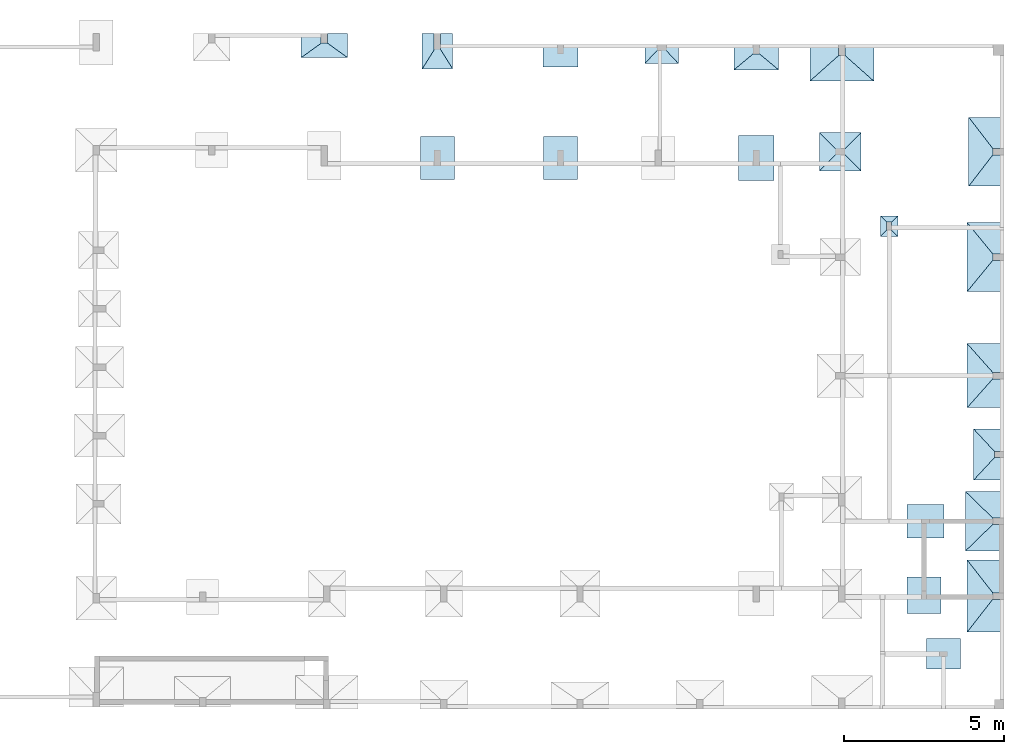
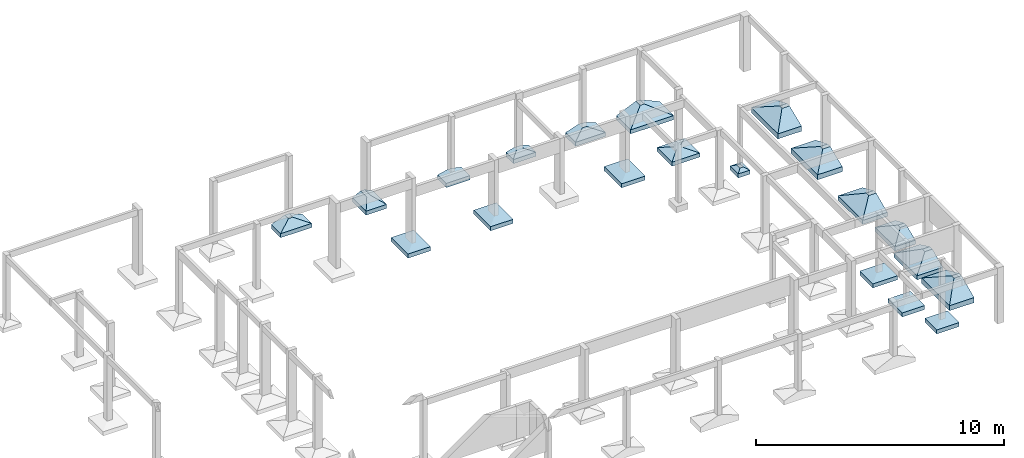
# One storey, part 5 of 5: 20 footings.
"""IFC4 building model written with IfcOpenShell, lengths in centimetres."""

import ifcopenshell
import ifcopenshell.guid

model = None  # the IFC model being written
_history = None  # IfcOwnerHistory: only IFC2X3 demands one
_inside = {}  # id of a spatial element -> (the spatial element, [elements in it])
_under = {}  # id of a project, library or spatial element -> (it, [spatial elements below it])
_declared = {}  # id of a project -> (the project, [libraries it declares])
_typed = {}  # id of a type object -> (the type object, [elements of that type])
_made_of = {}  # id of a material, layer set ... -> (it, [elements and type objects made of it])


def new_model(schema):
    """Start an empty IFC model of exactly this schema.

    Asked for "IFC4X3", IfcOpenShell would pick the latest addendum, in which some entities
    have other attributes; the version numbers below select the first issue.
    IFC2X3 requires an IfcOwnerHistory on every rooted entity: one is made here for all.
    """
    global model, _history
    if schema == "IFC4X3":
        model = ifcopenshell.file(schema_version=(4, 3, 0, 0))
    else:
        model = ifcopenshell.file(schema=schema)
    _inside.clear()
    _under.clear()
    _declared.clear()
    _typed.clear()
    _made_of.clear()
    _history = None
    if model.schema == "IFC2X3":
        org = make("IfcOrganization", Name="unknown")
        user = make(
            "IfcPersonAndOrganization",
            ThePerson=make("IfcPerson", FamilyName="unknown"),
            TheOrganization=org,
        )
        app = make(
            "IfcApplication",
            ApplicationDeveloper=org,
            Version="unknown",
            ApplicationFullName="unknown",
            ApplicationIdentifier="unknown",
        )
        _history = make(
            "IfcOwnerHistory",
            OwningUser=user,
            OwningApplication=app,
            ChangeAction="ADDED",
            CreationDate=0,
        )
    return model


def make(cls, **values):
    """One entity of the class cls with the attributes given. An attribute that is None is left unset."""
    return model.create_entity(
        cls, **{name: value for name, value in values.items() if value is not None}
    )


def rooted(cls, **values):
    """An entity with a GlobalId (a new one), such as an element, a storey or a relation."""
    return make(cls, GlobalId=ifcopenshell.guid.new(), OwnerHistory=_history, **values)


def si_unit(unit_type, name, prefix=None):
    """IfcSIUnit, for example si_unit("LENGTHUNIT", "METRE", prefix="MILLI")."""
    return make("IfcSIUnit", UnitType=unit_type, Prefix=prefix, Name=name)


def derived_unit(unit_type, elements):
    """IfcDerivedUnit: a product of units, each with its exponent."""
    return make(
        "IfcDerivedUnit",
        Elements=[
            make("IfcDerivedUnitElement", Unit=unit, Exponent=power)
            for unit, power in elements
        ],
        UnitType=unit_type,
    )


def assignment(units):
    """IfcUnitAssignment: the units of a project."""
    return None if units is None else make("IfcUnitAssignment", Units=units)


def point(xyz):
    """IfcCartesianPoint."""
    return None if xyz is None else make("IfcCartesianPoint", Coordinates=xyz)


def direction(xyz):
    """IfcDirection."""
    return None if xyz is None else make("IfcDirection", DirectionRatios=xyz)


def frame(location, z_axis=None, x_axis=None):
    """IfcAxis2Placement3D, a coordinate frame: its origin and axes. An axis left out is left unset."""
    return make(
        "IfcAxis2Placement3D",
        Location=point(location),
        Axis=direction(z_axis),
        RefDirection=direction(x_axis),
    )


def origin_with_axes():
    """The frame at (0, 0, 0) with the z axis (0, 0, 1) and the x axis (1, 0, 0) written out."""
    return frame((0.0, 0.0, 0.0), z_axis=(0.0, 0.0, 1.0), x_axis=(1.0, 0.0, 0.0))


def place(relative_to, where):
    """IfcLocalPlacement: puts the frame where relative to a parent placement (None: the world)."""
    return make(
        "IfcLocalPlacement", PlacementRelTo=relative_to, RelativePlacement=where
    )


def context(
    kind, dimensions, precision=None, world=None, true_north=None, identifier=None
):
    """IfcGeometricRepresentationContext, for example the 3D "Model" context."""
    return make(
        "IfcGeometricRepresentationContext",
        ContextIdentifier=identifier,
        ContextType=kind,
        CoordinateSpaceDimension=dimensions,
        Precision=precision,
        WorldCoordinateSystem=world,
        TrueNorth=true_north,
    )


def project(units=None, contexts=None):
    """IfcProject with its units and contexts."""
    return rooted(
        "IfcProject",
        Name="project",
        RepresentationContexts=contexts,
        UnitsInContext=assignment(units),
    )


def spatial(cls, under=None, at=None, **own):
    """A site, building, storey or space (cls), placed at a placement, below another one or the project."""
    s = rooted(cls, ObjectPlacement=at, **own)
    if under is not None:
        _under.setdefault(under.id(), (under, []))[1].append(s)
    return s


def faces_of(points, faces, orient=None, outer=None):
    """IfcFace entities. A face is a list of loops; a loop is a list of indices into points, from 0.

    orient and outer hold one flag for each loop. By default every Orientation is true, the
    first loop of a face is its IfcFaceOuterBound and the others are IfcFaceBound.
    """
    made = []
    for i, loops in enumerate(faces):
        bounds = []
        for j, loop in enumerate(loops):
            is_outer = j == 0 if outer is None else outer[i][j]
            bounds.append(
                make(
                    "IfcFaceOuterBound" if is_outer else "IfcFaceBound",
                    Bound=make("IfcPolyLoop", Polygon=[points[k] for k in loop]),
                    Orientation=True if orient is None else orient[i][j],
                )
            )
        made.append(make("IfcFace", Bounds=bounds))
    return made


def faceted_brep(points, faces, orient=None, outer=None, voids=None):
    """IfcFacetedBrep: a solid bounded by flat faces; with voids (closed shells), ...WithVoids."""
    shared = [point(p) for p in points]
    hull = make("IfcClosedShell", CfsFaces=faces_of(shared, faces, orient, outer))
    if voids is None:
        return make("IfcFacetedBrep", Outer=hull)
    return make(
        "IfcFacetedBrepWithVoids",
        Outer=hull,
        Voids=[
            make(cls, CfsFaces=faces_of(shared, fs, o, b)) for cls, fs, o, b in voids
        ],
    )


def shape(context_of_items, identifier, shape_type, items):
    """IfcShapeRepresentation: the items that make up one representation, for example the "Body"."""
    return make(
        "IfcShapeRepresentation",
        ContextOfItems=context_of_items,
        RepresentationIdentifier=identifier,
        RepresentationType=shape_type,
        Items=items,
    )


def material(Name=None, Category=None):
    """IfcMaterial."""
    return make("IfcMaterial", Name=Name, Category=Category)


def made_of(thing, what):
    """Note that an element or type object is made of a material, layer set ...; save() writes the relation."""
    if what is not None:
        _made_of.setdefault(what.id(), (what, []))[1].append(thing)
    return thing


def element(
    cls,
    number,
    at=None,
    inside=None,
    cuts=None,
    type_object=None,
    material=None,
    context=None,
    identifier="Body",
    shape_type=None,
    held_by="IfcProductDefinitionShape",
    body=None,
    shapes=None,
    **own,
):
    """One element of the class cls, such as IfcWall. Its Tag is "e" and its number.

    at: its placement. inside: the storey or other place that contains it. cuts: it is an
    opening in that element (IfcRelVoidsElement). A single representation is given by context,
    identifier, shape_type and body (its items); several are given by shapes. held_by: the class
    of the entity that holds the representations. save() writes the other relations.
    """
    e = rooted(cls, Tag="e%d" % number, ObjectPlacement=at, **own)
    if body is not None:
        shapes = [shape(context, identifier, shape_type, body)]
    if shapes is not None:
        e.Representation = make(held_by, Representations=shapes)
    if inside is not None:
        _inside.setdefault(inside.id(), (inside, []))[1].append(e)
    if cuts is not None:
        rooted(
            "IfcRelVoidsElement", RelatingBuildingElement=cuts, RelatedOpeningElement=e
        )
    if type_object is not None:
        _typed.setdefault(type_object.id(), (type_object, []))[1].append(e)
    return made_of(e, material)


def aggregate(whole, parts):
    """IfcRelAggregates: a whole, such as a stair, and the parts it consists of."""
    return rooted("IfcRelAggregates", RelatingObject=whole, RelatedObjects=parts)


def save(model, path):
    """Write the relations noted so far, then the file.

    IfcRelAggregates (storeys below a building ...), IfcRelContainedInSpatialStructure (elements
    in a storey), IfcRelDefinesByType, IfcRelAssociatesMaterial and IfcRelDeclares: one each for
    every whole, place, type object, material and project.
    """
    for whole, parts in _under.values():
        aggregate(whole, parts)
    for where, things in _inside.values():
        rooted(
            "IfcRelContainedInSpatialStructure",
            RelatedElements=things,
            RelatingStructure=where,
        )
    for kind, things in _typed.values():
        rooted("IfcRelDefinesByType", RelatedObjects=things, RelatingType=kind)
    for what, things in _made_of.values():
        rooted("IfcRelAssociatesMaterial", RelatedObjects=things, RelatingMaterial=what)
    for by, libraries in _declared.values():
        rooted("IfcRelDeclares", RelatingContext=by, RelatedDefinitions=libraries)
    model.write(path)


model = new_model("IFC4")

# Units and contexts
model_context = context("Model", 3, precision=1e-05, world=origin_with_axes(), identifier="Body")
ifc_project = project(units=[si_unit("LENGTHUNIT", "METRE", prefix="CENTI"), si_unit("VOLUMEUNIT", "CUBIC_METRE"), si_unit("AREAUNIT", "SQUARE_METRE"), si_unit("POWERUNIT", "WATT"), si_unit("LUMINOUSFLUXUNIT", "LUMEN"), si_unit("ELECTRICCURRENTUNIT", "AMPERE"), si_unit("PRESSUREUNIT", "PASCAL", prefix="KILO"), si_unit("MASSUNIT", "GRAM", prefix="KILO"), si_unit("PLANEANGLEUNIT", "RADIAN"), derived_unit("VOLUMETRICFLOWRATEUNIT", [(si_unit("LENGTHUNIT", "METRE"), 3), (si_unit("TIMEUNIT", "SECOND"), -1)])], contexts=[model_context])

# Site, building, storey
site_placement = place(None, origin_with_axes())
site = spatial("IfcSite", under=ifc_project, at=site_placement)
building_placement = place(site_placement, frame((0.0, 0.0, -295.0)))
building = spatial("IfcBuilding", under=site, at=building_placement)
placement_1 = place(building_placement, origin_with_axes())
placement_2 = place(placement_1, frame((0.0, 0.0, 101.0), z_axis=(0.0, 0.0, 1.0), x_axis=(1.0, 0.0, 0.0)))
storey_placement = place(placement_2, frame((0.0, 0.0, 204.0), z_axis=(0.0, 0.0, 1.0), x_axis=(1.0, 0.0, 0.0)))
storey = spatial("IfcBuildingStorey", under=building, at=storey_placement, Name="TÉRREO", CompositionType="ELEMENT", Elevation=10.0)

# Footings
ifc_material = material(Name="Concreto")
for number, where, z_axis, x_axis, name in (
    (1, (2248.73, -5459.62, -320.0), (0.0, 0.0, 1.0), (1.0, 0.0, 0.0), "P14"),
    (2, (2632.84, -5459.62, -320.0), (0.0, 0.0, 1.0), (1.0, 0.0, 0.0), "P15"),
):
    element("IfcFooting", number, at=place(storey_placement, frame(where, z_axis=z_axis, x_axis=x_axis)), inside=storey, material=ifc_material, Name=name, PredefinedType="PAD_FOOTING", context=model_context, shape_type="SolidModel", body=[
        faceted_brep([(-52.5, 67.5, -30.0), (52.5, 67.5, -30.0), (52.5, -67.5, -30.0), (-52.5, -67.5, -30.0), (-52.5, -67.5, -10.0), (52.5, -67.5, -10.0), (52.5, 67.5, -10.0), (-52.5, 67.5, -10.0)], [[[0, 1, 2, 3]], [[4, 5, 6, 7]], [[4, 3, 5]], [[3, 2, 5]], [[5, 2, 6]], [[2, 1, 6]], [[6, 1, 7]], [[1, 0, 7]], [[7, 0, 4]], [[0, 3, 4]]]),
        faceted_brep([(-52.5, 67.5, -10.0), (52.5, 67.5, -10.0), (52.5, -67.5, -10.0), (-52.5, -67.5, -10.0), (-10.0, -25.0, 0.0), (10.0, -25.0, 0.0), (10.0, 25.0, 0.0), (-10.0, 25.0, 0.0)], [[[0, 1, 2, 3]], [[4, 5, 6, 7]], [[4, 3, 5]], [[3, 2, 5]], [[5, 2, 6]], [[2, 1, 6]], [[6, 1, 7]], [[1, 0, 7]], [[7, 0, 4]], [[0, 3, 4]]]),
    ])
footing_1_placement = place(storey_placement, frame((3243.73, -5459.62, -320.0), z_axis=(0.0, 0.0, 1.0), x_axis=(1.0, 0.0, 0.0)))
element("IfcFooting", 3, at=footing_1_placement, inside=storey, material=ifc_material, Name="P17", PredefinedType="PAD_FOOTING", context=model_context, shape_type="SolidModel", body=[
    faceted_brep([(-55.0, 70.0, -30.0), (55.0, 70.0, -30.0), (55.0, -70.0, -30.0), (-55.0, -70.0, -30.0), (-55.0, -70.0, -10.0), (55.0, -70.0, -10.0), (55.0, 70.0, -10.0), (-55.0, 70.0, -10.0)], [[[0, 1, 2, 3]], [[4, 5, 6, 7]], [[4, 3, 5]], [[3, 2, 5]], [[5, 2, 6]], [[2, 1, 6]], [[6, 1, 7]], [[1, 0, 7]], [[7, 0, 4]], [[0, 3, 4]]]),
    faceted_brep([(-55.0, 70.0, -10.0), (55.0, 70.0, -10.0), (55.0, -70.0, -10.0), (-55.0, -70.0, -10.0), (-10.0, -25.0, 0.0), (10.0, -25.0, 0.0), (10.0, 25.0, 0.0), (-10.0, 25.0, 0.0)], [[[0, 1, 2, 3]], [[4, 5, 6, 7]], [[4, 3, 5]], [[3, 2, 5]], [[5, 2, 6]], [[2, 1, 6]], [[6, 1, 7]], [[1, 0, 7]], [[7, 0, 4]], [[0, 3, 4]]]),
])
footing_2_placement = place(storey_placement, frame((3505.71, -5439.69, -315.0), z_axis=(0.0, 0.0, 1.0), x_axis=(1.0, 0.0, 0.0)))
element("IfcFooting", 4, at=footing_2_placement, inside=storey, material=ifc_material, Name="P18", PredefinedType="PAD_FOOTING", context=model_context, shape_type="SolidModel", body=[
    faceted_brep([(65.0, 60.0, -35.0), (65.0, -60.0, -35.0), (-65.0, -60.0, -35.0), (-65.0, 60.0, -35.0), (-65.0, 60.0, -15.0), (-65.0, -60.0, -15.0), (65.0, -60.0, -15.0), (65.0, 60.0, -15.0)], [[[0, 1, 2, 3]], [[4, 5, 6, 7]], [[4, 3, 5]], [[3, 2, 5]], [[5, 2, 6]], [[2, 1, 6]], [[6, 1, 7]], [[1, 0, 7]], [[7, 0, 4]], [[0, 3, 4]]]),
    faceted_brep([(65.0, 60.0, -15.0), (65.0, -60.0, -15.0), (-65.0, -60.0, -15.0), (-65.0, 60.0, -15.0), (-15.0, 10.0, 0.0), (-15.0, -10.0, 0.0), (15.0, -10.0, 0.0), (15.0, 10.0, 0.0)], [[[0, 1, 2, 3]], [[4, 5, 6, 7]], [[4, 3, 5]], [[3, 2, 5]], [[5, 2, 6]], [[2, 1, 6]], [[6, 1, 7]], [[1, 0, 7]], [[7, 0, 4]], [[0, 3, 4]]]),
])
footing_3_placement = place(storey_placement, frame((3961.74, -5439.69, -285.0), z_axis=(0.0, 0.0, 1.0), x_axis=(1.0, 0.0, 0.0)))
element("IfcFooting", 5, at=footing_3_placement, inside=storey, material=ifc_material, Name="P19", PredefinedType="PAD_FOOTING", context=model_context, shape_type="SolidModel", body=[
    faceted_brep([(55.0, 107.5, -65.0), (55.0, -107.5, -65.0), (-55.0, -107.5, -65.0), (-55.0, 107.5, -65.0), (-55.0, 107.5, -40.0), (-55.0, -107.5, -40.0), (55.0, -107.5, -40.0), (55.0, 107.5, -40.0)], [[[0, 1, 2, 3]], [[4, 5, 6, 7]], [[4, 3, 5]], [[3, 2, 5]], [[5, 2, 6]], [[2, 1, 6]], [[6, 1, 7]], [[1, 0, 7]], [[7, 0, 4]], [[0, 3, 4]]]),
    faceted_brep([(55.0, 107.5, -40.0), (55.0, -107.5, -40.0), (-55.0, -107.5, -40.0), (-55.0, 107.5, -40.0), (20.0, 10.0, 0.0), (20.0, -10.0, 0.0), (55.0, -10.0, 0.0), (55.0, 10.0, 0.0)], [[[0, 1, 2, 3]], [[4, 5, 6, 7]], [[4, 3, 5]], [[3, 2, 5]], [[5, 2, 6]], [[2, 1, 6]], [[6, 1, 7]], [[1, 0, 7]], [[7, 0, 4]], [[0, 3, 4]]]),
])
footing_4_placement = place(storey_placement, frame((3658.23, -5672.05, -320.0), z_axis=(0.0, 0.0, 1.0), x_axis=(1.0, 0.0, 0.0)))
element("IfcFooting", 6, at=footing_4_placement, inside=storey, material=ifc_material, Name="P21", PredefinedType="PAD_FOOTING", context=model_context, shape_type="SolidModel", body=[
    faceted_brep([(-27.5, 32.5, -30.0), (27.5, 32.5, -30.0), (27.5, -32.5, -30.0), (-27.5, -32.5, -30.0), (-27.5, -32.5, -10.0), (27.5, -32.5, -10.0), (27.5, 32.5, -10.0), (-27.5, 32.5, -10.0)], [[[0, 1, 2, 3]], [[4, 5, 6, 7]], [[4, 3, 5]], [[3, 2, 5]], [[5, 2, 6]], [[2, 1, 6]], [[6, 1, 7]], [[1, 0, 7]], [[7, 0, 4]], [[0, 3, 4]]]),
    faceted_brep([(-27.5, 32.5, -10.0), (27.5, 32.5, -10.0), (27.5, -32.5, -10.0), (-27.5, -32.5, -10.0), (-7.5, -12.5, 0.0), (7.5, -12.5, 0.0), (7.5, 12.5, 0.0), (-7.5, 12.5, 0.0)], [[[0, 1, 2, 3]], [[4, 5, 6, 7]], [[4, 3, 5]], [[3, 2, 5]], [[5, 2, 6]], [[2, 1, 6]], [[6, 1, 7]], [[1, 0, 7]], [[7, 0, 4]], [[0, 3, 4]]]),
])
footing_5_placement = place(storey_placement, frame((3959.26, -5768.55, -285.0), z_axis=(0.0, 0.0, 1.0), x_axis=(1.0, 0.0, 0.0)))
element("IfcFooting", 7, at=footing_5_placement, inside=storey, material=ifc_material, Name="P26", PredefinedType="PAD_FOOTING", context=model_context, shape_type="SolidModel", body=[
    faceted_brep([(57.5, 107.5, -65.0), (57.5, -107.5, -65.0), (-57.5, -107.5, -65.0), (-57.5, 107.5, -65.0), (-57.5, 107.5, -40.0), (-57.5, -107.5, -40.0), (57.5, -107.5, -40.0), (57.5, 107.5, -40.0)], [[[0, 1, 2, 3]], [[4, 5, 6, 7]], [[4, 3, 5]], [[3, 2, 5]], [[5, 2, 6]], [[2, 1, 6]], [[6, 1, 7]], [[1, 0, 7]], [[7, 0, 4]], [[0, 3, 4]]]),
    faceted_brep([(57.5, 107.5, -40.0), (57.5, -107.5, -40.0), (-57.5, -107.5, -40.0), (-57.5, 107.5, -40.0), (22.5, 10.0, 0.0), (22.5, -10.0, 0.0), (57.5, -10.0, 0.0), (57.5, 10.0, 0.0)], [[[0, 1, 2, 3]], [[4, 5, 6, 7]], [[4, 3, 5]], [[3, 2, 5]], [[5, 2, 6]], [[2, 1, 6]], [[6, 1, 7]], [[1, 0, 7]], [[7, 0, 4]], [[0, 3, 4]]]),
])
footing_6_placement = place(storey_placement, frame((3959.26, -6138.55, -290.0), z_axis=(0.0, 0.0, 1.0), x_axis=(1.0, 0.0, 0.0)))
element("IfcFooting", 8, at=footing_6_placement, inside=storey, material=ifc_material, Name="P31", PredefinedType="PAD_FOOTING", context=model_context, shape_type="SolidModel", body=[
    faceted_brep([(57.5, 100.0, -60.0), (57.5, -100.0, -60.0), (-57.5, -100.0, -60.0), (-57.5, 100.0, -60.0), (-57.5, 100.0, -40.0), (-57.5, -100.0, -40.0), (57.5, -100.0, -40.0), (57.5, 100.0, -40.0)], [[[0, 1, 2, 3]], [[4, 5, 6, 7]], [[4, 3, 5]], [[3, 2, 5]], [[5, 2, 6]], [[2, 1, 6]], [[6, 1, 7]], [[1, 0, 7]], [[7, 0, 4]], [[0, 3, 4]]]),
    faceted_brep([(57.5, 100.0, -40.0), (57.5, -100.0, -40.0), (-57.5, -100.0, -40.0), (-57.5, 100.0, -40.0), (22.5, 10.0, 0.0), (22.5, -10.0, 0.0), (57.5, -10.0, 0.0), (57.5, 10.0, 0.0)], [[[0, 1, 2, 3]], [[4, 5, 6, 7]], [[4, 3, 5]], [[3, 2, 5]], [[5, 2, 6]], [[2, 1, 6]], [[6, 1, 7]], [[1, 0, 7]], [[7, 0, 4]], [[0, 3, 4]]]),
])
footing_7_placement = place(storey_placement, frame((3969.26, -6384.65, -300.0), z_axis=(0.0, 0.0, 1.0), x_axis=(1.0, 0.0, 0.0)))
element("IfcFooting", 9, at=footing_7_placement, inside=storey, material=ifc_material, Name="P34", PredefinedType="PAD_FOOTING", context=model_context, shape_type="SolidModel", body=[
    faceted_brep([(47.5, 80.0, -50.0), (47.5, -80.0, -50.0), (-47.5, -80.0, -50.0), (-47.5, 80.0, -50.0), (-47.5, 80.0, -30.0), (-47.5, -80.0, -30.0), (47.5, -80.0, -30.0), (47.5, 80.0, -30.0)], [[[0, 1, 2, 3]], [[4, 5, 6, 7]], [[4, 3, 5]], [[3, 2, 5]], [[5, 2, 6]], [[2, 1, 6]], [[6, 1, 7]], [[1, 0, 7]], [[7, 0, 4]], [[0, 3, 4]]]),
    faceted_brep([(47.5, 80.0, -30.0), (47.5, -80.0, -30.0), (-47.5, -80.0, -30.0), (-47.5, 80.0, -30.0), (17.5, 10.0, 0.0), (17.5, -10.0, 0.0), (47.5, -10.0, 0.0), (47.5, 10.0, 0.0)], [[[0, 1, 2, 3]], [[4, 5, 6, 7]], [[4, 3, 5]], [[3, 2, 5]], [[5, 2, 6]], [[2, 1, 6]], [[6, 1, 7]], [[1, 0, 7]], [[7, 0, 4]], [[0, 3, 4]]]),
])
footing_8_placement = place(storey_placement, frame((3772.23, -6592.81, -320.0), z_axis=(0.0, 0.0, 1.0), x_axis=(1.0, 0.0, 0.0)))
element("IfcFooting", 10, at=footing_8_placement, inside=storey, material=ifc_material, Name="P38", PredefinedType="PAD_FOOTING", context=model_context, shape_type="SolidModel", body=[
    faceted_brep([(-57.5, -52.5, -30.0), (-57.5, 52.5, -30.0), (57.5, 52.5, -30.0), (57.5, -52.5, -30.0), (57.5, -52.5, -10.0), (57.5, 52.5, -10.0), (-57.5, 52.5, -10.0), (-57.5, -52.5, -10.0)], [[[0, 1, 2, 3]], [[4, 5, 6, 7]], [[4, 3, 5]], [[3, 2, 5]], [[5, 2, 6]], [[2, 1, 6]], [[6, 1, 7]], [[1, 0, 7]], [[7, 0, 4]], [[0, 3, 4]]]),
    faceted_brep([(-57.5, -52.5, -10.0), (-57.5, 52.5, -10.0), (57.5, 52.5, -10.0), (57.5, -52.5, -10.0), (12.5, -7.5, 0.0), (12.5, 7.5, 0.0), (-12.5, 7.5, 0.0), (-12.5, -7.5, 0.0)], [[[0, 1, 2, 3]], [[4, 5, 6, 7]], [[4, 3, 5]], [[3, 2, 5]], [[5, 2, 6]], [[2, 1, 6]], [[6, 1, 7]], [[1, 0, 7]], [[7, 0, 4]], [[0, 3, 4]]]),
])
footing_9_placement = place(storey_placement, frame((3956.73, -6592.81, -290.0), z_axis=(0.0, 0.0, 1.0), x_axis=(1.0, 0.0, 0.0)))
element("IfcFooting", 11, at=footing_9_placement, inside=storey, material=ifc_material, Name="P39", PredefinedType="PAD_FOOTING", context=model_context, shape_type="SolidModel", body=[
    faceted_brep([(60.0, 92.5, -60.0), (60.0, -92.5, -60.0), (-60.0, -92.5, -60.0), (-60.0, 92.5, -60.0), (-60.0, 92.5, -40.0), (-60.0, -92.5, -40.0), (60.0, -92.5, -40.0), (60.0, 92.5, -40.0)], [[[0, 1, 2, 3]], [[4, 5, 6, 7]], [[4, 3, 5]], [[3, 2, 5]], [[5, 2, 6]], [[2, 1, 6]], [[6, 1, 7]], [[1, 0, 7]], [[7, 0, 4]], [[0, 3, 4]]]),
    faceted_brep([(60.0, 92.5, -40.0), (60.0, -92.5, -40.0), (-60.0, -92.5, -40.0), (-60.0, 92.5, -40.0), (25.0, 10.0, 0.0), (25.0, -10.0, 0.0), (60.0, -10.0, 0.0), (60.0, 10.0, 0.0)], [[[0, 1, 2, 3]], [[4, 5, 6, 7]], [[4, 3, 5]], [[3, 2, 5]], [[5, 2, 6]], [[2, 1, 6]], [[6, 1, 7]], [[1, 0, 7]], [[7, 0, 4]], [[0, 3, 4]]]),
])
footing_10_placement = place(storey_placement, frame((1895.85, -5108.61, -305.0), z_axis=(0.0, 0.0, 1.0), x_axis=(1.0, 0.0, 0.0)))
element("IfcFooting", 12, at=footing_10_placement, inside=storey, material=ifc_material, Name="P4", PredefinedType="PAD_FOOTING", context=model_context, shape_type="SolidModel", body=[
    faceted_brep([(-72.5, 37.5, -45.0), (72.5, 37.5, -45.0), (72.5, -37.5, -45.0), (-72.5, -37.5, -45.0), (-72.5, -37.5, -25.0), (72.5, -37.5, -25.0), (72.5, 37.5, -25.0), (-72.5, 37.5, -25.0)], [[[0, 1, 2, 3]], [[4, 5, 6, 7]], [[4, 3, 5]], [[3, 2, 5]], [[5, 2, 6]], [[2, 1, 6]], [[6, 1, 7]], [[1, 0, 7]], [[7, 0, 4]], [[0, 3, 4]]]),
    faceted_brep([(-72.5, 37.5, -25.0), (72.5, 37.5, -25.0), (72.5, -37.5, -25.0), (-72.5, -37.5, -25.0), (-10.0, 7.5, 0.0), (10.0, 7.5, 0.0), (10.0, 37.5, 0.0), (-10.0, 37.5, 0.0)], [[[0, 1, 2, 3]], [[4, 5, 6, 7]], [[4, 3, 5]], [[3, 2, 5]], [[5, 2, 6]], [[2, 1, 6]], [[6, 1, 7]], [[1, 0, 7]], [[7, 0, 4]], [[0, 3, 4]]]),
])
footing_11_placement = place(storey_placement, frame((3767.23, -6823.79, -320.0), z_axis=(0.0, 0.0, 1.0), x_axis=(1.0, 0.0, 0.0)))
element("IfcFooting", 13, at=footing_11_placement, inside=storey, material=ifc_material, Name="P48", PredefinedType="PAD_FOOTING", context=model_context, shape_type="SolidModel", body=[
    faceted_brep([(-52.5, 57.5, -30.0), (52.5, 57.5, -30.0), (52.5, -57.5, -30.0), (-52.5, -57.5, -30.0), (-52.5, -57.5, -10.0), (52.5, -57.5, -10.0), (52.5, 57.5, -10.0), (-52.5, 57.5, -10.0)], [[[0, 1, 2, 3]], [[4, 5, 6, 7]], [[4, 3, 5]], [[3, 2, 5]], [[5, 2, 6]], [[2, 1, 6]], [[6, 1, 7]], [[1, 0, 7]], [[7, 0, 4]], [[0, 3, 4]]]),
    faceted_brep([(-52.5, 57.5, -10.0), (52.5, 57.5, -10.0), (52.5, -57.5, -10.0), (-52.5, -57.5, -10.0), (-7.5, -12.5, 0.0), (7.5, -12.5, 0.0), (7.5, 12.5, 0.0), (-7.5, 12.5, 0.0)], [[[0, 1, 2, 3]], [[4, 5, 6, 7]], [[4, 3, 5]], [[3, 2, 5]], [[5, 2, 6]], [[2, 1, 6]], [[6, 1, 7]], [[1, 0, 7]], [[7, 0, 4]], [[0, 3, 4]]]),
])
footing_12_placement = place(storey_placement, frame((3959.25, -6826.29, -280.0), z_axis=(0.0, 0.0, 1.0), x_axis=(1.0, 0.0, 0.0)))
element("IfcFooting", 14, at=footing_12_placement, inside=storey, material=ifc_material, Name="P49", PredefinedType="PAD_FOOTING", context=model_context, shape_type="SolidModel", body=[
    faceted_brep([(57.5, 112.5, -70.0), (57.5, -112.5, -70.0), (-57.5, -112.5, -70.0), (-57.5, 112.5, -70.0), (-57.5, 112.5, -45.0), (-57.5, -112.5, -45.0), (57.5, -112.5, -45.0), (57.5, 112.5, -45.0)], [[[0, 1, 2, 3]], [[4, 5, 6, 7]], [[4, 3, 5]], [[3, 2, 5]], [[5, 2, 6]], [[2, 1, 6]], [[6, 1, 7]], [[1, 0, 7]], [[7, 0, 4]], [[0, 3, 4]]]),
    faceted_brep([(57.5, 112.5, -45.0), (57.5, -112.5, -45.0), (-57.5, -112.5, -45.0), (-57.5, 112.5, -45.0), (22.5, 10.0, 0.0), (22.5, -10.0, 0.0), (57.5, -10.0, 0.0), (57.5, 10.0, 0.0)], [[[0, 1, 2, 3]], [[4, 5, 6, 7]], [[4, 3, 5]], [[3, 2, 5]], [[5, 2, 6]], [[2, 1, 6]], [[6, 1, 7]], [[1, 0, 7]], [[7, 0, 4]], [[0, 3, 4]]]),
])
footing_13_placement = place(storey_placement, frame((2248.73, -5126.25, -310.0), z_axis=(0.0, 0.0, 1.0), x_axis=(1.0, 0.0, 0.0)))
element("IfcFooting", 15, at=footing_13_placement, inside=storey, material=ifc_material, Name="P5", PredefinedType="PAD_FOOTING", context=model_context, shape_type="SolidModel", body=[
    faceted_brep([(-47.5, 55.0, -40.0), (47.5, 55.0, -40.0), (47.5, -55.0, -40.0), (-47.5, -55.0, -40.0), (-47.5, -55.0, -20.0), (47.5, -55.0, -20.0), (47.5, 55.0, -20.0), (-47.5, 55.0, -20.0)], [[[0, 1, 2, 3]], [[4, 5, 6, 7]], [[4, 3, 5]], [[3, 2, 5]], [[5, 2, 6]], [[2, 1, 6]], [[6, 1, 7]], [[1, 0, 7]], [[7, 0, 4]], [[0, 3, 4]]]),
    faceted_brep([(-47.5, 55.0, -20.0), (47.5, 55.0, -20.0), (47.5, -55.0, -20.0), (-47.5, -55.0, -20.0), (-10.0, 5.0, 0.0), (10.0, 5.0, 0.0), (10.0, 55.0, 0.0), (-10.0, 55.0, 0.0)], [[[0, 1, 2, 3]], [[4, 5, 6, 7]], [[4, 3, 5]], [[3, 2, 5]], [[5, 2, 6]], [[2, 1, 6]], [[6, 1, 7]], [[1, 0, 7]], [[7, 0, 4]], [[0, 3, 4]]]),
])
footing_14_placement = place(storey_placement, frame((3828.09, -7006.81, -320.0), z_axis=(0.0, 0.0, 1.0), x_axis=(1.0, 0.0, 0.0)))
element("IfcFooting", 16, at=footing_14_placement, inside=storey, material=ifc_material, Name="P50", PredefinedType="PAD_FOOTING", context=model_context, shape_type="SolidModel", body=[
    faceted_brep([(52.5, 47.5, -30.0), (52.5, -47.5, -30.0), (-52.5, -47.5, -30.0), (-52.5, 47.5, -30.0), (-52.5, 47.5, -10.0), (-52.5, -47.5, -10.0), (52.5, -47.5, -10.0), (52.5, 47.5, -10.0)], [[[0, 1, 2, 3]], [[4, 5, 6, 7]], [[4, 3, 5]], [[3, 2, 5]], [[5, 2, 6]], [[2, 1, 6]], [[6, 1, 7]], [[1, 0, 7]], [[7, 0, 4]], [[0, 3, 4]]]),
    faceted_brep([(52.5, 47.5, -10.0), (52.5, -47.5, -10.0), (-52.5, -47.5, -10.0), (-52.5, 47.5, -10.0), (-12.5, 7.5, 0.0), (-12.5, -7.5, 0.0), (12.5, -7.5, 0.0), (12.5, 7.5, 0.0)], [[[0, 1, 2, 3]], [[4, 5, 6, 7]], [[4, 3, 5]], [[3, 2, 5]], [[5, 2, 6]], [[2, 1, 6]], [[6, 1, 7]], [[1, 0, 7]], [[7, 0, 4]], [[0, 3, 4]]]),
])
footing_15_placement = place(storey_placement, frame((2632.84, -5139.55, -320.0), z_axis=(0.0, 0.0, 1.0), x_axis=(1.0, 0.0, 0.0)))
element("IfcFooting", 17, at=footing_15_placement, inside=storey, material=ifc_material, Name="P6", PredefinedType="PAD_FOOTING", context=model_context, shape_type="SolidModel", body=[
    faceted_brep([(-55.0, 35.0, -30.0), (55.0, 35.0, -30.0), (55.0, -35.0, -30.0), (-55.0, -35.0, -30.0), (-55.0, -35.0, -10.0), (55.0, -35.0, -10.0), (55.0, 35.0, -10.0), (-55.0, 35.0, -10.0)], [[[0, 1, 2, 3]], [[4, 5, 6, 7]], [[4, 3, 5]], [[3, 2, 5]], [[5, 2, 6]], [[2, 1, 6]], [[6, 1, 7]], [[1, 0, 7]], [[7, 0, 4]], [[0, 3, 4]]]),
    faceted_brep([(-55.0, 35.0, -10.0), (55.0, 35.0, -10.0), (55.0, -35.0, -10.0), (-55.0, -35.0, -10.0), (-10.0, 5.0, 0.0), (10.0, 5.0, 0.0), (10.0, 35.0, 0.0), (-10.0, 35.0, 0.0)], [[[0, 1, 2, 3]], [[4, 5, 6, 7]], [[4, 3, 5]], [[3, 2, 5]], [[5, 2, 6]], [[2, 1, 6]], [[6, 1, 7]], [[1, 0, 7]], [[7, 0, 4]], [[0, 3, 4]]]),
])
footing_16_placement = place(storey_placement, frame((2948.28, -5134.55, -320.0), z_axis=(0.0, 0.0, 1.0), x_axis=(1.0, 0.0, 0.0)))
element("IfcFooting", 18, at=footing_16_placement, inside=storey, material=ifc_material, Name="P7", PredefinedType="PAD_FOOTING", context=model_context, shape_type="SolidModel", body=[
    faceted_brep([(52.5, 30.0, -30.0), (52.5, -30.0, -30.0), (-52.5, -30.0, -30.0), (-52.5, 30.0, -30.0), (-52.5, 30.0, -10.0), (-52.5, -30.0, -10.0), (52.5, -30.0, -10.0), (52.5, 30.0, -10.0)], [[[0, 1, 2, 3]], [[4, 5, 6, 7]], [[4, 3, 5]], [[3, 2, 5]], [[5, 2, 6]], [[2, 1, 6]], [[6, 1, 7]], [[1, 0, 7]], [[7, 0, 4]], [[0, 3, 4]]]),
    faceted_brep([(52.5, 30.0, -10.0), (52.5, -30.0, -10.0), (-52.5, -30.0, -10.0), (-52.5, 30.0, -10.0), (-15.0, 30.0, 0.0), (-15.0, 10.0, 0.0), (15.0, 10.0, 0.0), (15.0, 30.0, 0.0)], [[[0, 1, 2, 3]], [[4, 5, 6, 7]], [[4, 3, 5]], [[3, 2, 5]], [[5, 2, 6]], [[2, 1, 6]], [[6, 1, 7]], [[1, 0, 7]], [[7, 0, 4]], [[0, 3, 4]]]),
])
footing_17_placement = place(storey_placement, frame((3243.73, -5144.55, -310.0), z_axis=(0.0, 0.0, 1.0), x_axis=(1.0, 0.0, 0.0)))
element("IfcFooting", 19, at=footing_17_placement, inside=storey, material=ifc_material, Name="P8", PredefinedType="PAD_FOOTING", context=model_context, shape_type="SolidModel", body=[
    faceted_brep([(-70.0, 40.0, -40.0), (70.0, 40.0, -40.0), (70.0, -40.0, -40.0), (-70.0, -40.0, -40.0), (-70.0, -40.0, -20.0), (70.0, -40.0, -20.0), (70.0, 40.0, -20.0), (-70.0, 40.0, -20.0)], [[[0, 1, 2, 3]], [[4, 5, 6, 7]], [[4, 3, 5]], [[3, 2, 5]], [[5, 2, 6]], [[2, 1, 6]], [[6, 1, 7]], [[1, 0, 7]], [[7, 0, 4]], [[0, 3, 4]]]),
    faceted_brep([(-70.0, 40.0, -20.0), (70.0, 40.0, -20.0), (70.0, -40.0, -20.0), (-70.0, -40.0, -20.0), (-10.0, 10.0, 0.0), (10.0, 10.0, 0.0), (10.0, 40.0, 0.0), (-10.0, 40.0, 0.0)], [[[0, 1, 2, 3]], [[4, 5, 6, 7]], [[4, 3, 5]], [[3, 2, 5]], [[5, 2, 6]], [[2, 1, 6]], [[6, 1, 7]], [[1, 0, 7]], [[7, 0, 4]], [[0, 3, 4]]]),
])
footing_18_placement = place(storey_placement, frame((3510.73, -5162.05, -290.0), z_axis=(0.0, 0.0, 1.0), x_axis=(1.0, 0.0, 0.0)))
element("IfcFooting", 20, at=footing_18_placement, inside=storey, material=ifc_material, Name="P9", PredefinedType="PAD_FOOTING", context=model_context, shape_type="SolidModel", body=[
    faceted_brep([(-100.0, 57.5, -60.0), (100.0, 57.5, -60.0), (100.0, -57.5, -60.0), (-100.0, -57.5, -60.0), (-100.0, -57.5, -40.0), (100.0, -57.5, -40.0), (100.0, 57.5, -40.0), (-100.0, 57.5, -40.0)], [[[0, 1, 2, 3]], [[4, 5, 6, 7]], [[4, 3, 5]], [[3, 2, 5]], [[5, 2, 6]], [[2, 1, 6]], [[6, 1, 7]], [[1, 0, 7]], [[7, 0, 4]], [[0, 3, 4]]]),
    faceted_brep([(-100.0, 57.5, -40.0), (100.0, 57.5, -40.0), (100.0, -57.5, -40.0), (-100.0, -57.5, -40.0), (-10.0, 22.5, 0.0), (10.0, 22.5, 0.0), (10.0, 57.5, 0.0), (-10.0, 57.5, 0.0)], [[[0, 1, 2, 3]], [[4, 5, 6, 7]], [[4, 3, 5]], [[3, 2, 5]], [[5, 2, 6]], [[2, 1, 6]], [[6, 1, 7]], [[1, 0, 7]], [[7, 0, 4]], [[0, 3, 4]]]),
])

save(model, "model.ifc")
